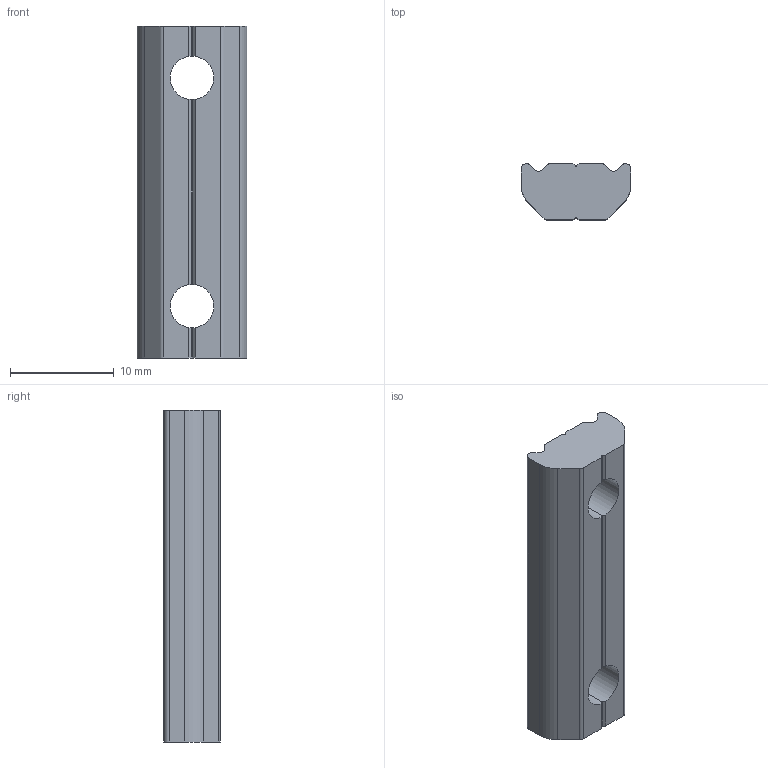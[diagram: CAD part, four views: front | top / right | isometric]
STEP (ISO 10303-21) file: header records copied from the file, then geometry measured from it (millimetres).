
FILE_DESCRIPTION (( 'STEP AP214' ), '1' );
FILE_NAME ('PTN-M5P22.STEP', '2019-10-30T02:17:28', ( '微软用户' ), ( '微软中国' ), 'SwSTEP 2.0', 'SolidWorks 2016', '' );
FILE_SCHEMA (( 'AUTOMOTIVE_DESIGN' ));
Length unit declared in the file: millimetre
Products named in the file (1): PTN-M5P22
Bounding box: 10.6 x 5.4 x 32 mm (x, y, z)
Volume: 1432.3 mm3; surface area: 1142.9 mm2
Topology: 1 solids, 1 shells, 50 faces, 156 edges, 104 vertices
Faces by surface type: plane 28, cylinder 22
Entity records: 1890 total; most frequent: CARTESIAN_POINT 503, ORIENTED_EDGE 312, DIRECTION 262, EDGE_CURVE 156, VERTEX_POINT 104, LINE 88, VECTOR 88, AXIS2_PLACEMENT_3D 87
